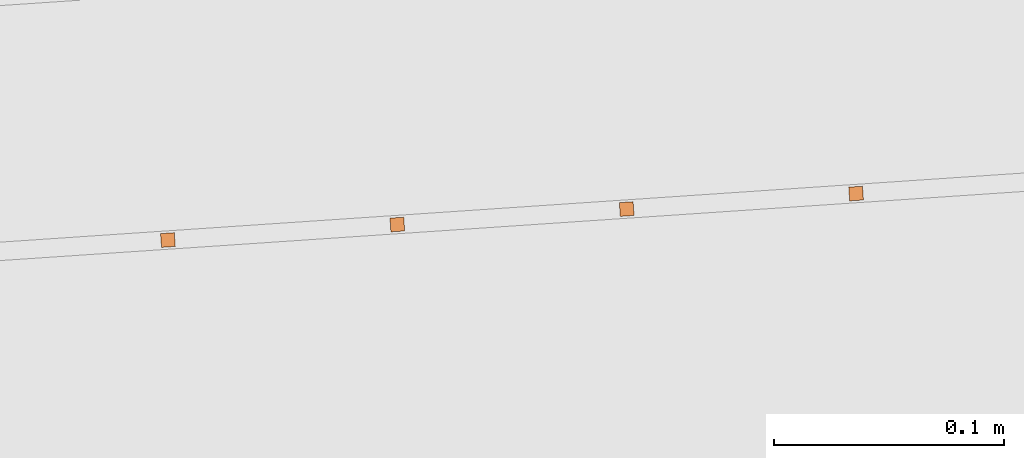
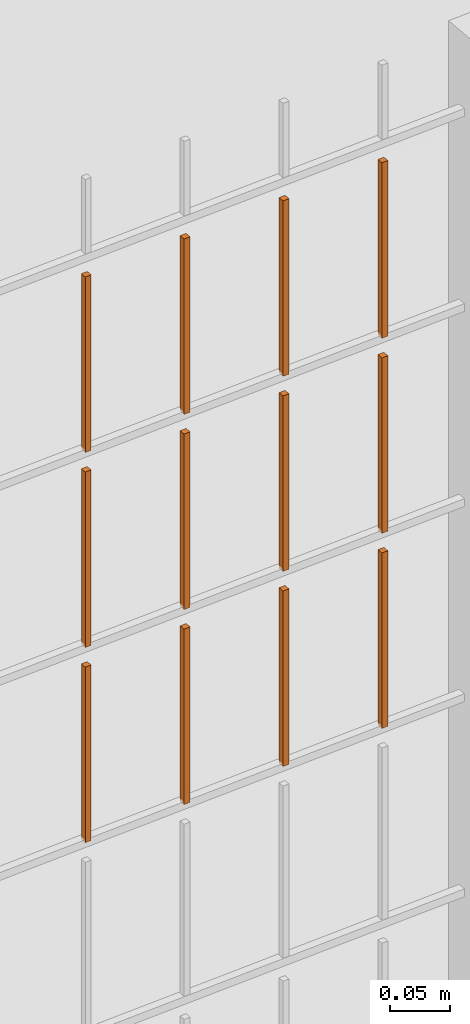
# One storey, part 315 of 1809: 12 proxies, 1 element without a shape of its own.
"""IFC2X3 building model written with IfcOpenShell, lengths in millimetres."""

from ifc_helpers import new_model, entity, si_unit, converted_unit, derived_unit, money_unit, direction, frame, origin_with_axes, place, context, subcontext, project, spatial, faceted_brep, source, transform, mapped, material, type_object, element, aggregate, save


model = new_model("IFC2X3")

# Units and contexts
model_context = context("Model", 3, precision=0.01, world=origin_with_axes(), true_north=direction((0.0, 1.0)))
body_context = subcontext(model_context, "Body", "Model", "MODEL_VIEW")
ifc_project = project(units=[si_unit("LENGTHUNIT", "METRE", prefix="MILLI"), si_unit("AREAUNIT", "SQUARE_METRE"), si_unit("VOLUMEUNIT", "CUBIC_METRE"), converted_unit("PLANEANGLEUNIT", "DEGREE", entity("IfcPlaneAngleMeasure", 0.0174532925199), si_unit("PLANEANGLEUNIT", "RADIAN"), dimensions=[0, 0, 0, 0, 0, 0, 0]), si_unit("SOLIDANGLEUNIT", "STERADIAN"), money_unit("EUR"), converted_unit("TIMEUNIT", "Year", entity("IfcTimeMeasure", 31556926.0), si_unit("TIMEUNIT", "SECOND"), dimensions=[0, 0, 1, 0, 0, 0, 0]), si_unit("MASSUNIT", "GRAM", prefix="KILO"), si_unit("THERMODYNAMICTEMPERATUREUNIT", "DEGREE_CELSIUS"), si_unit("LUMINOUSINTENSITYUNIT", "LUMEN"), si_unit("ENERGYUNIT", "JOULE", prefix="MEGA"), derived_unit("THERMALCONDUCTANCEUNIT", [(si_unit("POWERUNIT", "WATT"), 1), (si_unit("LENGTHUNIT", "METRE"), -1), (si_unit("THERMODYNAMICTEMPERATUREUNIT", "KELVIN"), -1)]), derived_unit("SPECIFICHEATCAPACITYUNIT", [(si_unit("ENERGYUNIT", "JOULE"), 1), (si_unit("MASSUNIT", "GRAM", prefix="KILO"), -1), (si_unit("THERMODYNAMICTEMPERATUREUNIT", "KELVIN"), -1)]), derived_unit("MASSDENSITYUNIT", [(si_unit("MASSUNIT", "GRAM", prefix="KILO"), 1), (si_unit("VOLUMEUNIT", "CUBIC_METRE"), -1)])], contexts=[model_context])

# Site, building, storey
site_placement = place(None, origin_with_axes())
site = spatial("IfcSite", under=ifc_project, at=site_placement, Name="Politse- ja Piirivalveameti ning Päästeameti ühishoone", CompositionType="ELEMENT")
building_placement = place(site_placement, origin_with_axes())
building = spatial("IfcBuilding", under=site, at=building_placement, Name="Politse- ja Piirivalveameti ning Päästeameti ühishoone", CompositionType="ELEMENT")
storey_placement = place(building_placement, origin_with_axes())
storey = spatial("IfcBuildingStorey", under=building, at=storey_placement, Name="Esimene korrus", CompositionType="ELEMENT", Elevation=0.0)

# Proxies
building_element_proxy_type_1 = type_object("IfcBuildingElementProxyType", Name="Railing Type", PredefinedType="NOTDEFINED")
proxy_1_placement = place(storey_placement, frame((89252.001212, -29183.4766571, 203.661247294), z_axis=(0.0, 0.0, 1.0), x_axis=(1.0, 0.0, 0.0)))
proxy_1 = element("IfcBuildingElementProxy", 1, at=proxy_1_placement, inside=storey, type_object=building_element_proxy_type_1, Name="PIIRDEAED")
ifc_material = material(Name="ET-03_Raud")
building_element_proxy_type_2 = type_object("IfcBuildingElementProxyType", Name="IfcBuildingElementProxy", PredefinedType="NOTDEFINED")
shared_shape_1 = source(origin_with_axes(), body_context, "Body", "Brep", [
    faceted_brep([(3.0, 3.0, -0.000752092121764), (-3.0, 3.0, -0.000752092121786), (-3.0, 3.0, 179.99926046), (3.0, 3.0, 179.99926046), (3.0, -3.0, 0.000752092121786), (-3.0, -3.0, 0.000752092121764), (-3.0, -3.0, 180.000764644), (3.0, -3.0, 180.000764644)], [[[0, 1, 2, 3]], [[0, 4, 5, 1]], [[1, 5, 6, 2]], [[3, 2, 6, 7]], [[4, 0, 3, 7]], [[5, 4, 7, 6]]]),
])
proxy_2_placement = place(proxy_1_placement, frame((-39935.6885045, -19995.2798082, 1417.19979995), z_axis=(0.0, 0.0, 1.0), x_axis=(1.0, 0.0, 0.0)))
proxy_2 = element("IfcBuildingElementProxy", 2, at=proxy_2_placement, type_object=building_element_proxy_type_2, material=ifc_material, Name="BALUSTER - 001", context=body_context, shape_type="MappedRepresentation", body=[
    mapped(shared_shape_1, transform((0.0, 0.0, 0.0), x_axis=(-0.0673926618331, 0.997726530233, 0.0), y_axis=(-0.997726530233, -0.0673926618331, 0.0), z_axis=(0.0, 0.0, 1.0))),
])
shared_shape_2 = source(origin_with_axes(), body_context, "Body", "Brep", [
    faceted_brep([(3.0, 3.0, -0.000752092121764), (-3.0, 3.0, -0.000752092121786), (-3.0, 3.0, 179.99926046), (3.0, 3.0, 179.99926046), (3.0, -3.0, 0.000752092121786), (-3.0, -3.0, 0.000752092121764), (-3.0, -3.0, 180.000764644), (3.0, -3.0, 180.000764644)], [[[0, 1, 2, 3]], [[0, 4, 5, 1]], [[1, 5, 6, 2]], [[3, 2, 6, 7]], [[4, 0, 3, 7]], [[5, 4, 7, 6]]]),
])
proxy_3_placement = place(proxy_1_placement, frame((-39935.6885045, -19995.2798082, 1817.19979995), z_axis=(0.0, 0.0, 1.0), x_axis=(1.0, 0.0, 0.0)))
proxy_3 = element("IfcBuildingElementProxy", 3, at=proxy_3_placement, type_object=building_element_proxy_type_2, material=ifc_material, Name="BALUSTER - 001", context=body_context, shape_type="MappedRepresentation", body=[
    mapped(shared_shape_2, transform((0.0, 0.0, 0.0), x_axis=(-0.0673926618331, 0.997726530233, 0.0), y_axis=(-0.997726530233, -0.0673926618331, 0.0), z_axis=(0.0, 0.0, 1.0))),
])
shared_shape_3 = source(origin_with_axes(), body_context, "Body", "Brep", [
    faceted_brep([(3.0, 3.0, -0.000752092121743), (-3.0, 3.0, -0.000752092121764), (-3.0, 3.0, 179.99926046), (3.0, 3.0, 179.99926046), (3.0, -3.0, 0.000752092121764), (-3.0, -3.0, 0.000752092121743), (-3.0, -3.0, 180.000764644), (3.0, -3.0, 180.000764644)], [[[0, 1, 2, 3]], [[0, 4, 5, 1]], [[1, 5, 6, 2]], [[3, 2, 6, 7]], [[4, 0, 3, 7]], [[5, 4, 7, 6]]]),
])
proxy_4_placement = place(proxy_1_placement, frame((-39835.9158515, -19988.5405421, 1417.22486969), z_axis=(0.0, 0.0, 1.0), x_axis=(1.0, 0.0, 0.0)))
proxy_4 = element("IfcBuildingElementProxy", 4, at=proxy_4_placement, type_object=building_element_proxy_type_2, material=ifc_material, Name="BALUSTER - 001", context=body_context, shape_type="MappedRepresentation", body=[
    mapped(shared_shape_3, transform((0.0, 0.0, 0.0), x_axis=(-0.0673926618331, 0.997726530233, 0.0), y_axis=(-0.997726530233, -0.0673926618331, 0.0), z_axis=(0.0, 0.0, 1.0))),
])
proxy_5_placement = place(proxy_1_placement, frame((-39835.9158515, -19988.5405421, 1617.22486969), z_axis=(0.0, 0.0, 1.0), x_axis=(1.0, 0.0, 0.0)))
proxy_5 = element("IfcBuildingElementProxy", 5, at=proxy_5_placement, type_object=building_element_proxy_type_2, material=ifc_material, Name="BALUSTER - 001", context=body_context, shape_type="MappedRepresentation", body=[
    mapped(shared_shape_3, transform((0.0, 0.0, 0.0), x_axis=(-0.0673926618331, 0.997726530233, 0.0), y_axis=(-0.997726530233, -0.0673926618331, 0.0), z_axis=(0.0, 0.0, 1.0))),
])
shared_shape_4 = source(origin_with_axes(), body_context, "Body", "Brep", [
    faceted_brep([(3.0, 3.0, -0.000752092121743), (-3.0, 3.0, -0.000752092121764), (-3.0, 3.0, 179.99926046), (3.0, 3.0, 179.99926046), (3.0, -3.0, 0.000752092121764), (-3.0, -3.0, 0.000752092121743), (-3.0, -3.0, 180.000764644), (3.0, -3.0, 180.000764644)], [[[0, 1, 2, 3]], [[0, 4, 5, 1]], [[1, 5, 6, 2]], [[3, 2, 6, 7]], [[4, 0, 3, 7]], [[5, 4, 7, 6]]]),
])
proxy_6_placement = place(proxy_1_placement, frame((-39835.9158515, -19988.5405421, 1817.22486969), z_axis=(0.0, 0.0, 1.0), x_axis=(1.0, 0.0, 0.0)))
proxy_6 = element("IfcBuildingElementProxy", 6, at=proxy_6_placement, type_object=building_element_proxy_type_2, material=ifc_material, Name="BALUSTER - 001", context=body_context, shape_type="MappedRepresentation", body=[
    mapped(shared_shape_4, transform((0.0, 0.0, 0.0), x_axis=(-0.0673926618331, 0.997726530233, 0.0), y_axis=(-0.997726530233, -0.0673926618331, 0.0), z_axis=(0.0, 0.0, 1.0))),
])
shared_shape_5 = source(origin_with_axes(), body_context, "Body", "Brep", [
    faceted_brep([(3.0, 3.0, -0.000752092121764), (-3.0, 3.0, -0.000752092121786), (-3.0, 3.0, 179.99926046), (3.0, 3.0, 179.99926046), (3.0, -3.0, 0.000752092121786), (-3.0, -3.0, 0.000752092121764), (-3.0, -3.0, 180.000764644), (3.0, -3.0, 180.000764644)], [[[0, 1, 2, 3]], [[0, 4, 5, 1]], [[1, 5, 6, 2]], [[3, 2, 6, 7]], [[4, 0, 3, 7]], [[5, 4, 7, 6]]]),
])
proxy_7_placement = place(proxy_1_placement, frame((-39935.6885045, -19995.2798082, 1617.19979995), z_axis=(0.0, 0.0, 1.0), x_axis=(1.0, 0.0, 0.0)))
proxy_7 = element("IfcBuildingElementProxy", 7, at=proxy_7_placement, type_object=building_element_proxy_type_2, material=ifc_material, Name="BALUSTER - 001", context=body_context, shape_type="MappedRepresentation", body=[
    mapped(shared_shape_5, transform((0.0, 0.0, 0.0), x_axis=(-0.0673926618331, 0.997726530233, 0.0), y_axis=(-0.997726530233, -0.0673926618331, 0.0), z_axis=(0.0, 0.0, 1.0))),
])
shared_shape_6 = source(origin_with_axes(), body_context, "Body", "Brep", [
    faceted_brep([(3.0, 3.0, -0.000752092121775), (-3.0, 3.0, -0.000752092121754), (-3.0, 3.0, 179.99926046), (3.0, 3.0, 179.99926046), (3.0, -3.0, 0.000752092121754), (-3.0, -3.0, 0.000752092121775), (-3.0, -3.0, 180.000764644), (3.0, -3.0, 180.000764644)], [[[0, 1, 2, 3]], [[0, 4, 5, 1]], [[1, 5, 6, 2]], [[3, 2, 6, 7]], [[4, 0, 3, 7]], [[5, 4, 7, 6]]]),
])
proxy_8_placement = place(proxy_1_placement, frame((-40135.2338106, -20008.7583406, 1817.14966047), z_axis=(0.0, 0.0, 1.0), x_axis=(1.0, 0.0, 0.0)))
proxy_8 = element("IfcBuildingElementProxy", 8, at=proxy_8_placement, type_object=building_element_proxy_type_2, material=ifc_material, Name="BALUSTER - 001", context=body_context, shape_type="MappedRepresentation", body=[
    mapped(shared_shape_6, transform((0.0, 0.0, 0.0), x_axis=(-0.0673926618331, 0.997726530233, 0.0), y_axis=(-0.997726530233, -0.0673926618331, 0.0), z_axis=(0.0, 0.0, 1.0))),
])
shared_shape_7 = source(origin_with_axes(), body_context, "Body", "Brep", [
    faceted_brep([(3.0, 3.0, -0.000752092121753), (-3.0, 3.0, -0.000752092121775), (-3.0, 3.0, 179.99926046), (3.0, 3.0, 179.99926046), (3.0, -3.0, 0.000752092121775), (-3.0, -3.0, 0.000752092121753), (-3.0, -3.0, 180.000764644), (3.0, -3.0, 180.000764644)], [[[0, 1, 2, 3]], [[0, 4, 5, 1]], [[1, 5, 6, 2]], [[3, 2, 6, 7]], [[4, 0, 3, 7]], [[5, 4, 7, 6]]]),
])
proxy_9_placement = place(proxy_1_placement, frame((-40035.4611575, -20002.0190744, 1817.17473021), z_axis=(0.0, 0.0, 1.0), x_axis=(1.0, 0.0, 0.0)))
proxy_9 = element("IfcBuildingElementProxy", 9, at=proxy_9_placement, type_object=building_element_proxy_type_2, material=ifc_material, Name="BALUSTER - 001", context=body_context, shape_type="MappedRepresentation", body=[
    mapped(shared_shape_7, transform((0.0, 0.0, 0.0), x_axis=(-0.0673926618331, 0.997726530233, 0.0), y_axis=(-0.997726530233, -0.0673926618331, 0.0), z_axis=(0.0, 0.0, 1.0))),
])
shared_shape_8 = source(origin_with_axes(), body_context, "Body", "Brep", [
    faceted_brep([(3.0, 3.0, -0.000752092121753), (-3.0, 3.0, -0.000752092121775), (-3.0, 3.0, 179.99926046), (3.0, 3.0, 179.99926046), (3.0, -3.0, 0.000752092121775), (-3.0, -3.0, 0.000752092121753), (-3.0, -3.0, 180.000764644), (3.0, -3.0, 180.000764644)], [[[0, 1, 2, 3]], [[0, 4, 5, 1]], [[1, 5, 6, 2]], [[3, 2, 6, 7]], [[4, 0, 3, 7]], [[5, 4, 7, 6]]]),
])
proxy_10_placement = place(proxy_1_placement, frame((-40035.4611575, -20002.0190744, 1417.17473021), z_axis=(0.0, 0.0, 1.0), x_axis=(1.0, 0.0, 0.0)))
proxy_10 = element("IfcBuildingElementProxy", 10, at=proxy_10_placement, type_object=building_element_proxy_type_2, material=ifc_material, Name="BALUSTER - 001", context=body_context, shape_type="MappedRepresentation", body=[
    mapped(shared_shape_8, transform((0.0, 0.0, 0.0), x_axis=(-0.0673926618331, 0.997726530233, 0.0), y_axis=(-0.997726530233, -0.0673926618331, 0.0), z_axis=(0.0, 0.0, 1.0))),
])
proxy_11_placement = place(proxy_1_placement, frame((-40035.4611575, -20002.0190744, 1617.17473021), z_axis=(0.0, 0.0, 1.0), x_axis=(1.0, 0.0, 0.0)))
proxy_11 = element("IfcBuildingElementProxy", 11, at=proxy_11_placement, type_object=building_element_proxy_type_2, material=ifc_material, Name="BALUSTER - 001", context=body_context, shape_type="MappedRepresentation", body=[
    mapped(shared_shape_8, transform((0.0, 0.0, 0.0), x_axis=(-0.0673926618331, 0.997726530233, 0.0), y_axis=(-0.997726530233, -0.0673926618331, 0.0), z_axis=(0.0, 0.0, 1.0))),
])
shared_shape_9 = source(origin_with_axes(), body_context, "Body", "Brep", [
    faceted_brep([(3.0, 3.0, -0.000752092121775), (-3.0, 3.0, -0.000752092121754), (-3.0, 3.0, 179.99926046), (3.0, 3.0, 179.99926046), (3.0, -3.0, 0.000752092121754), (-3.0, -3.0, 0.000752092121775), (-3.0, -3.0, 180.000764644), (3.0, -3.0, 180.000764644)], [[[0, 1, 2, 3]], [[0, 4, 5, 1]], [[1, 5, 6, 2]], [[3, 2, 6, 7]], [[4, 0, 3, 7]], [[5, 4, 7, 6]]]),
])
proxy_12_placement = place(proxy_1_placement, frame((-40135.2338106, -20008.7583406, 1417.14966047), z_axis=(0.0, 0.0, 1.0), x_axis=(1.0, 0.0, 0.0)))
proxy_12 = element("IfcBuildingElementProxy", 12, at=proxy_12_placement, type_object=building_element_proxy_type_2, material=ifc_material, Name="BALUSTER - 001", context=body_context, shape_type="MappedRepresentation", body=[
    mapped(shared_shape_9, transform((0.0, 0.0, 0.0), x_axis=(-0.0673926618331, 0.997726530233, 0.0), y_axis=(-0.997726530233, -0.0673926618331, 0.0), z_axis=(0.0, 0.0, 1.0))),
])
proxy_13_placement = place(proxy_1_placement, frame((-40135.2338106, -20008.7583406, 1617.14966047), z_axis=(0.0, 0.0, 1.0), x_axis=(1.0, 0.0, 0.0)))
proxy_13 = element("IfcBuildingElementProxy", 13, at=proxy_13_placement, type_object=building_element_proxy_type_2, material=ifc_material, Name="BALUSTER - 001", context=body_context, shape_type="MappedRepresentation", body=[
    mapped(shared_shape_9, transform((0.0, 0.0, 0.0), x_axis=(-0.0673926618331, 0.997726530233, 0.0), y_axis=(-0.997726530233, -0.0673926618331, 0.0), z_axis=(0.0, 0.0, 1.0))),
])
aggregate(proxy_1, [proxy_4, proxy_2, proxy_10, proxy_12, proxy_5, proxy_7, proxy_11, proxy_13, proxy_6, proxy_3, proxy_9, proxy_8])

save(model, "model.ifc")
